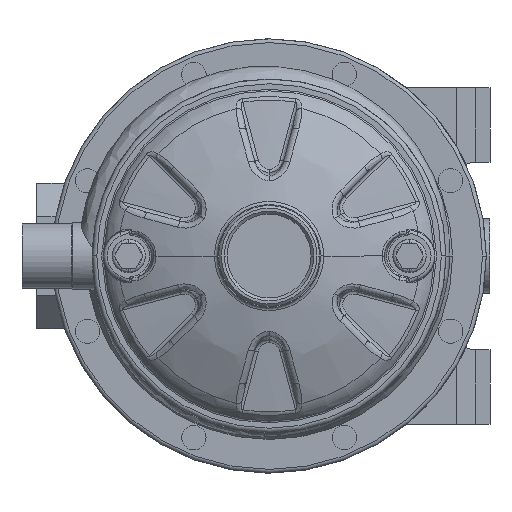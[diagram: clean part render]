
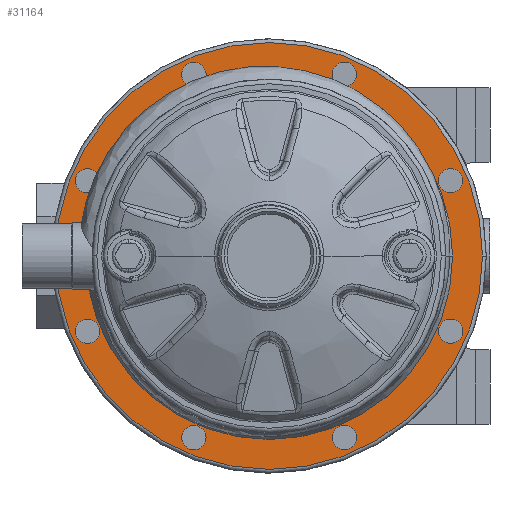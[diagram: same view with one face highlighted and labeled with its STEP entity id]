
A CAD part, left-side view. The second image highlights one B-rep face of the part: STEP entity #31164.
In plain terms, the highlighted planar face has unit normal (-1, 0, 0).
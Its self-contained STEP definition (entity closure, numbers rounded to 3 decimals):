
#23656=CARTESIAN_POINT('',(33.,0.,
0.));
#23657=DIRECTION('',(1.,0.,0.));
#23658=DIRECTION('',(0.,-1.,0.));
#23659=AXIS2_PLACEMENT_3D('',#23656,#23657,#23658);
#23664=CARTESIAN_POINT('',(33.,0.,0.));
#23665=DIRECTION('',(1.,0.,0.));
#23666=DIRECTION('',(0.,1.,0.));
#23667=AXIS2_PLACEMENT_3D('',#23664,#23665,#23666);
#23672=CARTESIAN_POINT('',(33.,0.,0.));
#23673=DIRECTION('',(-1.,0.,0.));
#23674=DIRECTION('',(0.,1.,0.));
#23675=AXIS2_PLACEMENT_3D('',#23672,#23673,#23674);
#23680=CARTESIAN_POINT('',(33.,0.,0.));
#23681=DIRECTION('',(-1.,0.,0.));
#23682=DIRECTION('',(0.,-1.,0.));
#23683=AXIS2_PLACEMENT_3D('',#23680,#23681,#23682);
#23688=CARTESIAN_POINT('',(33.,97.007,40.182));
#23689=DIRECTION('',(-1.,0.,0.));
#23690=DIRECTION('',(0.,0.,1.));
#23691=AXIS2_PLACEMENT_3D('',#23688,#23689,#23690);
#23696=CARTESIAN_POINT('',(33.,97.007,40.182));
#23697=DIRECTION('',(-1.,0.,0.));
#23698=DIRECTION('',(0.,0.,-1.));
#23699=AXIS2_PLACEMENT_3D('',#23696,#23697,#23698);
#23704=CARTESIAN_POINT('',(33.,40.182,97.007));
#23705=DIRECTION('',(-1.,0.,0.));
#23706=DIRECTION('',(0.,-0.707,0.707));
#23707=AXIS2_PLACEMENT_3D('',#23704,#23705,#23706);
#23712=CARTESIAN_POINT('',(33.,40.182,97.007));
#23713=DIRECTION('',(-1.,0.,0.));
#23714=DIRECTION('',(0.,0.707,-0.707));
#23715=AXIS2_PLACEMENT_3D('',#23712,#23713,#23714);
#23720=CARTESIAN_POINT('',(33.,-40.182,97.007));
#23721=DIRECTION('',(-1.,0.,0.));
#23722=DIRECTION('',(0.,-1.,0.));
#23723=AXIS2_PLACEMENT_3D('',#23720,#23721,#23722);
#23728=CARTESIAN_POINT('',(33.,-40.182,97.007));
#23729=DIRECTION('',(-1.,0.,0.));
#23730=DIRECTION('',(0.,1.,0.));
#23731=AXIS2_PLACEMENT_3D('',#23728,#23729,#23730);
#23736=CARTESIAN_POINT('',(33.,-97.007,40.182));
#23737=DIRECTION('',(-1.,0.,0.));
#23738=DIRECTION('',(0.,-0.707,-0.707));
#23739=AXIS2_PLACEMENT_3D('',#23736,#23737,#23738);
#23744=CARTESIAN_POINT('',(33.,-97.007,40.182));
#23745=DIRECTION('',(-1.,0.,0.));
#23746=DIRECTION('',(0.,0.707,0.707));
#23747=AXIS2_PLACEMENT_3D('',#23744,#23745,#23746);
#23752=CARTESIAN_POINT('',(33.,-97.007,-40.182));
#23753=DIRECTION('',(-1.,0.,0.));
#23754=DIRECTION('',(0.,0.,-1.));
#23755=AXIS2_PLACEMENT_3D('',#23752,#23753,#23754);
#23760=CARTESIAN_POINT('',(33.,-97.007,-40.182));
#23761=DIRECTION('',(-1.,0.,0.));
#23762=DIRECTION('',(0.,0.,1.));
#23763=AXIS2_PLACEMENT_3D('',#23760,#23761,#23762);
#23768=CARTESIAN_POINT('',(33.,-40.182,-97.007));
#23769=DIRECTION('',(-1.,0.,0.));
#23770=DIRECTION('',(0.,0.707,-0.707));
#23771=AXIS2_PLACEMENT_3D('',#23768,#23769,#23770);
#23776=CARTESIAN_POINT('',(33.,-40.182,-97.007));
#23777=DIRECTION('',(-1.,0.,0.));
#23778=DIRECTION('',(0.,-0.707,0.707));
#23779=AXIS2_PLACEMENT_3D('',#23776,#23777,#23778);
#23784=CARTESIAN_POINT('',(33.,40.182,-97.007));
#23785=DIRECTION('',(-1.,0.,0.));
#23786=DIRECTION('',(0.,1.,0.));
#23787=AXIS2_PLACEMENT_3D('',#23784,#23785,#23786);
#23792=CARTESIAN_POINT('',(33.,40.182,-97.007));
#23793=DIRECTION('',(-1.,0.,0.));
#23794=DIRECTION('',(0.,-1.,0.));
#23795=AXIS2_PLACEMENT_3D('',#23792,#23793,#23794);
#23800=CARTESIAN_POINT('',(33.,97.007,-40.182));
#23801=DIRECTION('',(-1.,0.,0.));
#23802=DIRECTION('',(0.,0.707,0.707));
#23803=AXIS2_PLACEMENT_3D('',#23800,#23801,#23802);
#23808=CARTESIAN_POINT('',(33.,97.007,-40.182));
#23809=DIRECTION('',(-1.,0.,0.));
#23810=DIRECTION('',(0.,-0.707,-0.707));
#23811=AXIS2_PLACEMENT_3D('',#23808,#23809,#23810);
#30479=CARTESIAN_POINT('',(33.,-98.,
0.));
#30480=CARTESIAN_POINT('',(33.,98.,
0.));
#30481=VERTEX_POINT('',#30479);
#30482=VERTEX_POINT('',#30480);
#30483=CARTESIAN_POINT('',(33.,114.,0.));
#30484=CARTESIAN_POINT('',(33.,-114.,0.));
#30485=VERTEX_POINT('',#30483);
#30486=VERTEX_POINT('',#30484);
#30503=CARTESIAN_POINT('',(33.,97.007,46.682));
#30504=CARTESIAN_POINT('',(33.,97.007,33.682));
#30505=VERTEX_POINT('',#30503);
#30506=VERTEX_POINT('',#30504);
#30535=CARTESIAN_POINT('',(33.,35.586,101.604));
#30536=VERTEX_POINT('',#30535);
#30537=CARTESIAN_POINT('',(33.,44.778,92.411));
#30538=VERTEX_POINT('',#30537);
#30551=CARTESIAN_POINT('',(33.,-46.682,97.007));
#30552=VERTEX_POINT('',#30551);
#30553=CARTESIAN_POINT('',(33.,-33.682,97.007));
#30554=VERTEX_POINT('',#30553);
#30567=CARTESIAN_POINT('',(33.,-101.604,35.586));
#30568=VERTEX_POINT('',#30567);
#30569=CARTESIAN_POINT('',(33.,-92.411,44.778));
#30570=VERTEX_POINT('',#30569);
#30583=CARTESIAN_POINT('',(33.,-97.007,-46.682));
#30584=VERTEX_POINT('',#30583);
#30585=CARTESIAN_POINT('',(33.,-97.007,-33.682));
#30586=VERTEX_POINT('',#30585);
#30599=CARTESIAN_POINT('',(33.,-35.586,-101.604));
#30600=VERTEX_POINT('',#30599);
#30601=CARTESIAN_POINT('',(33.,-44.778,-92.411));
#30602=VERTEX_POINT('',#30601);
#30615=CARTESIAN_POINT('',(33.,46.682,-97.007));
#30616=VERTEX_POINT('',#30615);
#30617=CARTESIAN_POINT('',(33.,33.682,-97.007));
#30618=VERTEX_POINT('',#30617);
#30631=CARTESIAN_POINT('',(33.,101.604,-35.586));
#30632=VERTEX_POINT('',#30631);
#30633=CARTESIAN_POINT('',(33.,92.411,-44.778));
#30634=VERTEX_POINT('',#30633);
#31100=CARTESIAN_POINT('',(33.,0.,0.));
#31101=DIRECTION('',(1.,0.,0.));
#31102=DIRECTION('',(0.,-1.,0.));
#31103=AXIS2_PLACEMENT_3D('',#31100,#31101,#31102);
#31104=PLANE('',#31103);
#31106=ORIENTED_EDGE('',*,*,#31105,.F.);
#31107=ORIENTED_EDGE('',*,*,#31090,.F.);
#31108=EDGE_LOOP('',(#31106,#31107));
#31109=FACE_OUTER_BOUND('',#31108,.F.);
#31111=ORIENTED_EDGE('',*,*,#31110,.F.);
#31113=ORIENTED_EDGE('',*,*,#31112,.F.);
#31114=EDGE_LOOP('',(#31111,#31113));
#31115=FACE_BOUND('',#31114,.F.);
#31117=ORIENTED_EDGE('',*,*,#31116,.T.);
#31119=ORIENTED_EDGE('',*,*,#31118,.T.);
#31120=EDGE_LOOP('',(#31117,#31119));
#31121=FACE_BOUND('',#31120,.F.);
#31123=ORIENTED_EDGE('',*,*,#31122,.T.);
#31125=ORIENTED_EDGE('',*,*,#31124,.T.);
#31126=EDGE_LOOP('',(#31123,#31125));
#31127=FACE_BOUND('',#31126,.F.);
#31129=ORIENTED_EDGE('',*,*,#31128,.T.);
#31131=ORIENTED_EDGE('',*,*,#31130,.T.);
#31132=EDGE_LOOP('',(#31129,#31131));
#31133=FACE_BOUND('',#31132,.F.);
#31135=ORIENTED_EDGE('',*,*,#31134,.T.);
#31137=ORIENTED_EDGE('',*,*,#31136,.T.);
#31138=EDGE_LOOP('',(#31135,#31137));
#31139=FACE_BOUND('',#31138,.F.);
#31141=ORIENTED_EDGE('',*,*,#31140,.T.);
#31143=ORIENTED_EDGE('',*,*,#31142,.T.);
#31144=EDGE_LOOP('',(#31141,#31143));
#31145=FACE_BOUND('',#31144,.F.);
#31147=ORIENTED_EDGE('',*,*,#31146,.T.);
#31149=ORIENTED_EDGE('',*,*,#31148,.T.);
#31150=EDGE_LOOP('',(#31147,#31149));
#31151=FACE_BOUND('',#31150,.F.);
#31153=ORIENTED_EDGE('',*,*,#31152,.T.);
#31155=ORIENTED_EDGE('',*,*,#31154,.T.);
#31156=EDGE_LOOP('',(#31153,#31155));
#31157=FACE_BOUND('',#31156,.F.);
#31159=ORIENTED_EDGE('',*,*,#31158,.T.);
#31161=ORIENTED_EDGE('',*,*,#31160,.T.);
#31162=EDGE_LOOP('',(#31159,#31161));
#31163=FACE_BOUND('',#31162,.F.);
#23660=CIRCLE('',#23659,98.);
#23668=CIRCLE('',#23667,98.);
#23676=CIRCLE('',#23675,114.);
#23684=CIRCLE('',#23683,114.);
#23692=CIRCLE('',#23691,6.5);
#23700=CIRCLE('',#23699,6.5);
#23708=CIRCLE('',#23707,6.5);
#23716=CIRCLE('',#23715,6.5);
#23724=CIRCLE('',#23723,6.5);
#23732=CIRCLE('',#23731,6.5);
#23740=CIRCLE('',#23739,6.5);
#23748=CIRCLE('',#23747,6.5);
#23756=CIRCLE('',#23755,6.5);
#23764=CIRCLE('',#23763,6.5);
#23772=CIRCLE('',#23771,6.5);
#23780=CIRCLE('',#23779,6.5);
#23788=CIRCLE('',#23787,6.5);
#23796=CIRCLE('',#23795,6.5);
#23804=CIRCLE('',#23803,6.5);
#23812=CIRCLE('',#23811,6.5);
#31090=EDGE_CURVE('',#30486,#30485,#23684,.T.);
#31105=EDGE_CURVE('',#30485,#30486,#23676,.T.);
#31110=EDGE_CURVE('',#30481,#30482,#23660,.T.);
#31112=EDGE_CURVE('',#30482,#30481,#23668,.T.);
#31116=EDGE_CURVE('',#30505,#30506,#23692,.T.);
#31118=EDGE_CURVE('',#30506,#30505,#23700,.T.);
#31122=EDGE_CURVE('',#30536,#30538,#23708,.T.);
#31124=EDGE_CURVE('',#30538,#30536,#23716,.T.);
#31128=EDGE_CURVE('',#30552,#30554,#23724,.T.);
#31130=EDGE_CURVE('',#30554,#30552,#23732,.T.);
#31134=EDGE_CURVE('',#30568,#30570,#23740,.T.);
#31136=EDGE_CURVE('',#30570,#30568,#23748,.T.);
#31140=EDGE_CURVE('',#30584,#30586,#23756,.T.);
#31142=EDGE_CURVE('',#30586,#30584,#23764,.T.);
#31146=EDGE_CURVE('',#30600,#30602,#23772,.T.);
#31148=EDGE_CURVE('',#30602,#30600,#23780,.T.);
#31152=EDGE_CURVE('',#30616,#30618,#23788,.T.);
#31154=EDGE_CURVE('',#30618,#30616,#23796,.T.);
#31158=EDGE_CURVE('',#30632,#30634,#23804,.T.);
#31160=EDGE_CURVE('',#30634,#30632,#23812,.T.);
#31164=ADVANCED_FACE('',(#31109,#31115,#31121,#31127,#31133,#31139,#31145,
#31151,#31157,#31163),#31104,.F.);
